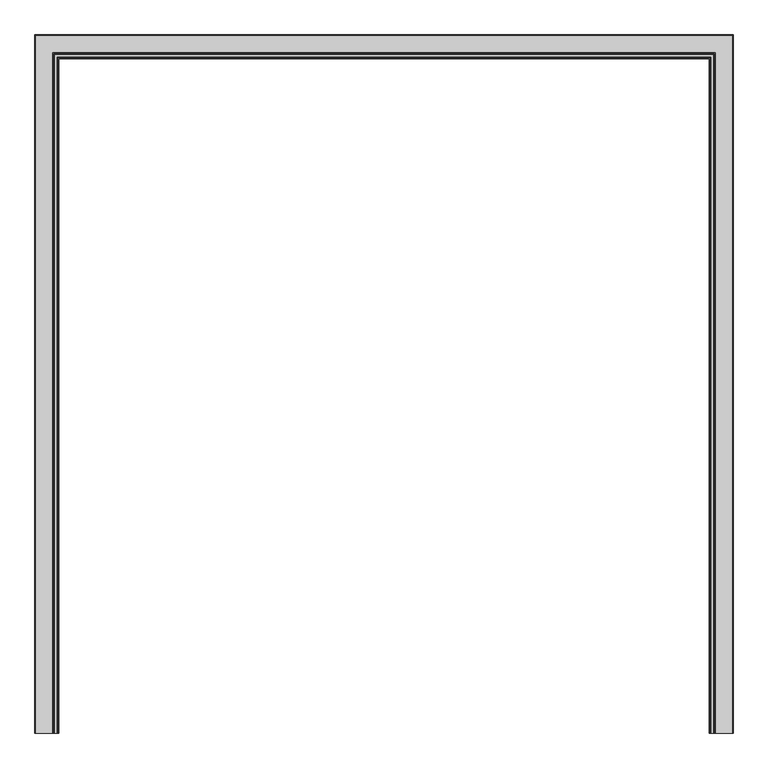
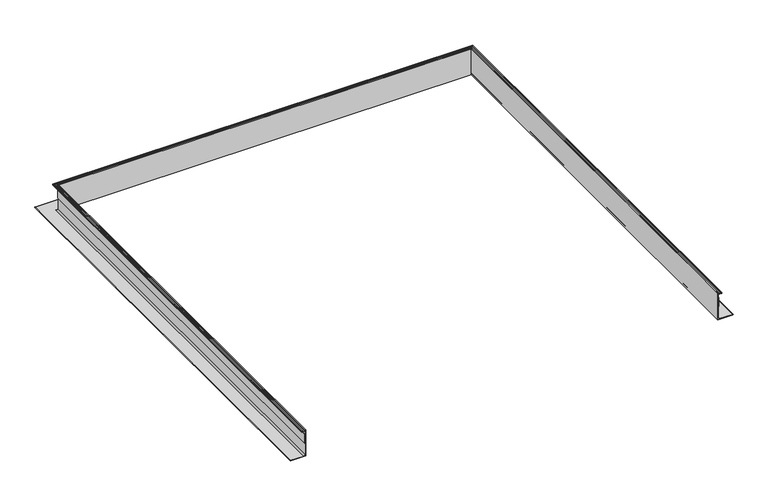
"""IFC4 building model written with IfcOpenShell, lengths in millimetres: fastener geometry."""

from ifc_helpers import new_model, si_unit, frame, origin, place, context, project, spatial, polyline, circle_curve, ellipse_curve, outline, extrude, source, transform, mapped, element, save
from ifc_brep_helpers import plane_surface, cylinder_surface, revolved_surface, advanced_brep


def fastener_20f67276(model_context):
    return source(origin(), model_context, "Body", "SolidModel", [
        advanced_brep(
        [(-1135.3165, -1219.2, -15.1804688), (-1141.2343456, -1219.2, -15.1804688), (-1141.460117, -1219.2, -17.1999455), (-1140.3710112, -1219.2, -18.2679836), (-1140.8594568, -1219.2, -19.21101), (-1152.5091166, -1219.2, -19.21101), (-1152.9649499, -1219.2, -18.2679836), (-1151.9131963, -1219.2, -17.1999455), (-1152.1178999, -1219.2, -15.1804688), (-1156.2117258, -1219.2, -15.1804688), (-1156.2117258, -1219.2, -21.87801), (-1137.9835, -1219.2, -21.87801), (-1137.9835, -1219.2, -157.3625171), (-1145.5344517, -1219.2, -164.9134688), (-1217.8665, -1219.2, -164.9134688), (-1217.8665, -1219.2, -167.5804688), (-1135.3165, -1219.2, -167.5804688), (1135.3165, -1219.2, -15.1804688), (1135.3165, -1219.2, -167.5804688), (1217.8665, -1219.2, -167.5804688), (1217.8665, -1219.2, -164.9134688), (1145.5344517, -1219.2, -164.9134688), (1137.9835, -1219.2, -157.3625171), (1137.9835, -1219.2, -21.87801), (1156.2117258, -1219.2, -21.87801), (1156.2117258, -1219.2, -15.1804688), (1152.1178999, -1219.2, -15.1804688), (1151.9131963, -1219.2, -17.1999455), (1152.9649499, -1219.2, -18.2679836), (1152.5091166, -1219.2, -19.21101), (1140.8594568, -1219.2, -19.21101), (1140.3710112, -1219.2, -18.2679836), (1141.460117, -1219.2, -17.1999455), (1141.2343456, -1219.2, -15.1804688), (-1141.460117, 1141.460117, -17.1999455), (-1141.2343456, 1141.2343456, -15.1804688), (1141.2343456, 1141.2343456, -15.1804688), (1141.460117, 1141.460117, -17.1999455), (-1140.3710112, 1140.3710112, -18.2679836), (1140.3710112, 1140.3710112, -18.2679836), (-1140.8594568, 1140.8594568, -19.21101), (1140.8594568, 1140.8594568, -19.21101), (-1152.9649499, 1152.9649499, -18.2679836), (-1152.5091166, 1152.5091166, -19.21101), (1152.5091166, 1152.5091166, -19.21101), (1152.9649499, 1152.9649499, -18.2679836), (-1151.9131963, 1151.9131963, -17.1999455), (1151.9131963, 1151.9131963, -17.1999455), (-1152.1178999, 1152.1178999, -15.1804688), (1152.1178999, 1152.1178999, -15.1804688), (-1156.2117258, 1156.2117258, -21.87801), (-1156.2117258, 1156.2117258, -15.1804688), (1156.2117258, 1156.2117258, -15.1804688), (1156.2117258, 1156.2117258, -21.87801), (-1137.9835, 1137.9835, -157.3625171), (-1137.9835, 1137.9835, -21.87801), (1137.9835, 1137.9835, -21.87801), (1137.9835, 1137.9835, -157.3625171), (-1145.5344517, 1145.5344517, -164.9134688), (1145.5344517, 1145.5344517, -164.9134688), (-1217.8665, 1217.8665, -167.5804688), (-1217.8665, 1217.8665, -164.9134688), (1217.8665, 1217.8665, -164.9134688), (1217.8665, 1217.8665, -167.5804688), (-1135.3165, 1135.3165, -15.1804688), (-1135.3165, 1135.3165, -167.5804688), (1135.3165, 1135.3165, -167.5804688), (1135.3165, 1135.3165, -15.1804688)],
        [
            (0, 1),
            (1, 2, circle_curve(frame((-1140.5022273, -1219.2, -16.284676), z_axis=(0.0, -1.0, 0.0), x_axis=(-1.0, 0.0, 0.0)), 1.3248664)),
            (2, 3),
            (3, 4, circle_curve(frame((-1140.8594568, -1219.2, -18.6130003), z_axis=(0.0, 1.0, 0.0), x_axis=(-1.0, 0.0, 0.0)), 0.5980097)),
            (4, 5),
            (5, 6, circle_curve(frame((-1152.5091166, -1219.2, -18.6293281), z_axis=(0.0, 1.0, 0.0), x_axis=(-1.0, 0.0, 0.0)), 0.5816819)),
            (6, 7),
            (7, 8, circle_curve(frame((-1152.8274757, -1219.2, -16.2725079), z_axis=(0.0, -1.0, 0.0), x_axis=(-1.0, 0.0, 0.0)), 1.3023238)),
            (8, 9),
            (9, 10),
            (10, 11),
            (11, 12),
            (12, 13, circle_curve(frame((-1145.5344517, -1219.2, -157.3625171), z_axis=(0.0, 1.0, 0.0), x_axis=(-1.0, 0.0, 0.0)), 7.5509517)),
            (13, 14),
            (14, 15, circle_curve(frame((-1217.8665, -1219.2, -166.2469688), z_axis=(0.0, -1.0, 0.0), x_axis=(-1.0, 0.0, 0.0)), 1.3335)),
            (15, 16),
            (16, 0),
            (17, 18),
            (18, 19),
            (19, 20, circle_curve(frame((1217.8665, -1219.2, -166.2469688), z_axis=(0.0, -1.0, 0.0), x_axis=(1.0, 0.0, 0.0)), 1.3335)),
            (20, 21),
            (21, 22, circle_curve(frame((1145.5344517, -1219.2, -157.3625171), z_axis=(0.0, 1.0, 0.0), x_axis=(1.0, 0.0, 0.0)), 7.5509517)),
            (22, 23),
            (23, 24),
            (24, 25),
            (25, 26),
            (26, 27, circle_curve(frame((1152.8274757, -1219.2, -16.2725079), z_axis=(0.0, -1.0, 0.0), x_axis=(1.0, 0.0, 0.0)), 1.3023238)),
            (27, 28),
            (28, 29, circle_curve(frame((1152.5091166, -1219.2, -18.6293281), z_axis=(0.0, 1.0, 0.0), x_axis=(1.0, 0.0, 0.0)), 0.5816819)),
            (29, 30),
            (30, 31, circle_curve(frame((1140.8594568, -1219.2, -18.6130003), z_axis=(0.0, 1.0, 0.0), x_axis=(1.0, 0.0, 0.0)), 0.5980097)),
            (31, 32),
            (32, 33, circle_curve(frame((1140.5022273, -1219.2, -16.284676), z_axis=(0.0, -1.0, 0.0), x_axis=(1.0, 0.0, 0.0)), 1.3248664)),
            (33, 17),
            (34, 35, ellipse_curve(frame((-1140.5022273, 1140.5022273, -16.284676), z_axis=(0.7071067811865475, 0.7071067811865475, 0.0), x_axis=(-0.7071067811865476, 0.7071067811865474, 0.0)), 1.873644, 1.3248664)),
            (35, 36),
            (36, 37, ellipse_curve(frame((1140.5022273, 1140.5022273, -16.284676), z_axis=(-0.7071067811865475, 0.7071067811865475, 0.0), x_axis=(-0.7071067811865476, -0.7071067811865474, 0.0)), 1.873644, 1.3248664)),
            (37, 34),
            (38, 34),
            (37, 39),
            (39, 38),
            (40, 38, ellipse_curve(frame((-1140.8594568, 1140.8594568, -18.6130003), z_axis=(-0.7071067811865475, -0.7071067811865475, 0.0), x_axis=(0.7071067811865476, -0.7071067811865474, 0.0)), 0.8457134, 0.5980097)),
            (39, 41, ellipse_curve(frame((1140.8594568, 1140.8594568, -18.6130003), z_axis=(0.7071067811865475, -0.7071067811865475, 0.0), x_axis=(0.7071067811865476, 0.7071067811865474, 0.0)), 0.8457134, 0.5980097)),
            (41, 40),
            (42, 43, ellipse_curve(frame((-1152.5091166, 1152.5091166, -18.6293281), z_axis=(-0.7071067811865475, -0.7071067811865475, 0.0), x_axis=(0.7071067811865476, -0.7071067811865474, 0.0)), 0.8226224, 0.5816819)),
            (43, 44),
            (44, 45, ellipse_curve(frame((1152.5091166, 1152.5091166, -18.6293281), z_axis=(0.7071067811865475, -0.7071067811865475, 0.0), x_axis=(0.7071067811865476, 0.7071067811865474, 0.0)), 0.8226224, 0.5816819)),
            (45, 42),
            (46, 42),
            (45, 47),
            (47, 46),
            (48, 46, ellipse_curve(frame((-1152.8274757, 1152.8274757, -16.2725079), z_axis=(0.7071067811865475, 0.7071067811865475, 0.0), x_axis=(-0.7071067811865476, 0.7071067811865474, 0.0)), 1.841764, 1.3023238)),
            (47, 49, ellipse_curve(frame((1152.8274757, 1152.8274757, -16.2725079), z_axis=(-0.7071067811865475, 0.7071067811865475, 0.0), x_axis=(-0.7071067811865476, -0.7071067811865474, 0.0)), 1.841764, 1.3023238)),
            (49, 48),
            (50, 51),
            (51, 52),
            (52, 53),
            (53, 50),
            (54, 55),
            (55, 56),
            (56, 57),
            (57, 54),
            (58, 54, ellipse_curve(frame((-1145.5344517, 1145.5344517, -157.3625171), z_axis=(-0.7071067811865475, -0.7071067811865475, 0.0), x_axis=(0.7071067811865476, -0.7071067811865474, 0.0)), 10.6786583, 7.5509517)),
            (57, 59, ellipse_curve(frame((1145.5344517, 1145.5344517, -157.3625171), z_axis=(0.7071067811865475, -0.7071067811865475, 0.0), x_axis=(0.7071067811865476, 0.7071067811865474, 0.0)), 10.6786583, 7.5509517)),
            (59, 58),
            (60, 61, ellipse_curve(frame((-1217.8665, 1217.8665, -166.2469688), z_axis=(0.7071067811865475, 0.7071067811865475, 0.0), x_axis=(-0.7071067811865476, 0.7071067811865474, 0.0)), 1.8858538, 1.3335)),
            (61, 62),
            (62, 63, ellipse_curve(frame((1217.8665, 1217.8665, -166.2469688), z_axis=(-0.7071067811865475, 0.7071067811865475, 0.0), x_axis=(-0.7071067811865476, -0.7071067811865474, 0.0)), 1.8858538, 1.3335)),
            (63, 60),
            (64, 65),
            (65, 66),
            (66, 67),
            (67, 64),
            (0, 64),
            (67, 17),
            (33, 36),
            (35, 1),
            (34, 2),
            (38, 3),
            (40, 4),
            (41, 30),
            (29, 44),
            (43, 5),
            (42, 6),
            (46, 7),
            (48, 8),
            (49, 26),
            (25, 52),
            (51, 9),
            (50, 10),
            (53, 24),
            (23, 56),
            (55, 11),
            (54, 12),
            (58, 13),
            (59, 21),
            (20, 62),
            (61, 14),
            (60, 15),
            (63, 19),
            (18, 66),
            (65, 16),
            (32, 37),
            (31, 39),
            (28, 45),
            (27, 47),
            (22, 57),
        ],
        [
            plane_surface(frame((-1219.2, -1219.2, 0.0), z_axis=(0.0, -1.0, 0.0), x_axis=(0.0, 0.0, 1.0))),
            plane_surface(frame((1219.2, -1219.2, 0.0), z_axis=(0.0, -1.0, 0.0), x_axis=(0.0, 0.0, 1.0))),
            cylinder_surface(frame((-1219.2, 1140.5022273, -16.284676), z_axis=(-1.0, 0.0, 0.0), x_axis=(0.0, 1.0, 0.0)), 1.3248664),
            plane_surface(frame((-1141.460117, 1141.460117, -17.1999455), z_axis=(0.0, 0.7001674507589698, -0.7139786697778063), x_axis=(1.0, 0.0, 0.0))),
            revolved_surface(polyline([(1141.4574664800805, 1141.4574665, -18.6130003), (-1141.4574664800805, 1141.4574665, -18.6130003)]), (-1219.2, 1140.8594568, -18.6130003), (1.0, 0.0, 0.0)),
            revolved_surface(polyline([(1153.090798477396, 1153.0907985, -18.6293281), (-1153.090798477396, 1153.0907985, -18.6293281)]), (-1219.2, 1152.5091166, -18.6293281), (1.0, 0.0, 0.0)),
            plane_surface(frame((-1152.9649499, 1152.9649499, -18.2679836), z_axis=(0.0, -0.7125178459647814, -0.7016539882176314), x_axis=(1.0, 0.0, 0.0))),
            cylinder_surface(frame((-1219.2, 1152.8274757, -16.2725079), z_axis=(-1.0, 0.0, 0.0), x_axis=(0.0, 1.0, 0.0)), 1.3023238),
            plane_surface(frame((-1156.2117258, 1156.2117258, -15.1804688), z_axis=(0.0, 1.0, 0.0), x_axis=(1.0, 0.0, 0.0))),
            plane_surface(frame((-1137.9835, 1137.9835, -21.87801), z_axis=(0.0, 1.0, 0.0), x_axis=(1.0, 0.0, 0.0))),
            revolved_surface(polyline([(1153.0854033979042, 1153.0854034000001, -157.3625171), (-1153.0854033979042, 1153.0854034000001, -157.3625171)]), (-1219.2, 1145.5344517, -157.3625171), (1.0, 0.0, 0.0)),
            cylinder_surface(frame((-1219.2, 1217.8665, -166.2469688), z_axis=(-1.0, 0.0, 0.0), x_axis=(0.0, 1.0, 0.0)), 1.3335),
            plane_surface(frame((-1135.3165, 1135.3165, -167.5804688), z_axis=(0.0, -1.0, 0.0), x_axis=(1.0, 0.0, 0.0))),
            plane_surface(frame((-1135.3165, -1219.2, -15.1804688), z_axis=(0.0, 0.0, 1.0), x_axis=(0.0, 1.0, 0.0))),
            cylinder_surface(frame((-1140.5022273, -1219.2, -16.284676), z_axis=(0.0, -1.0, 0.0), x_axis=(-1.0, 0.0, 0.0)), 1.3248664),
            plane_surface(frame((-1141.460117, -1219.2, -17.1999455), z_axis=(-0.7001674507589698, 0.0, -0.7139786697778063), x_axis=(0.0, 1.0, 0.0))),
            revolved_surface(polyline([(-1141.4574665, 1141.4574664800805, -18.6130003), (-1141.4574665, -1219.2, -18.6130003)]), (-1140.8594568, -1219.2, -18.6130003), (0.0, 1.0, 0.0)),
            plane_surface(frame((-1140.8594568, -1219.2, -19.21101), z_axis=(0.0, 0.0, 1.0), x_axis=(0.0, 1.0, 0.0))),
            revolved_surface(polyline([(-1153.0907985, 1153.090798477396, -18.6293281), (-1153.0907985, -1219.2, -18.6293281)]), (-1152.5091166, -1219.2, -18.6293281), (0.0, 1.0, 0.0)),
            plane_surface(frame((-1152.9649499, -1219.2, -18.2679836), z_axis=(0.7125178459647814, 0.0, -0.7016539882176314), x_axis=(0.0, 1.0, 0.0))),
            cylinder_surface(frame((-1152.8274757, -1219.2, -16.2725079), z_axis=(0.0, -1.0, 0.0), x_axis=(-1.0, 0.0, 0.0)), 1.3023238),
            plane_surface(frame((-1152.1178999, -1219.2, -15.1804688), z_axis=(0.0, 0.0, 1.0), x_axis=(0.0, 1.0, 0.0))),
            plane_surface(frame((-1156.2117258, -1219.2, -15.1804688), z_axis=(-1.0, 0.0, 0.0), x_axis=(0.0, 1.0, 0.0))),
            plane_surface(frame((-1156.2117258, -1219.2, -21.87801), z_axis=(0.0, 0.0, -1.0), x_axis=(0.0, 1.0, 0.0))),
            plane_surface(frame((-1137.9835, -1219.2, -21.87801), z_axis=(-1.0, 0.0, 0.0), x_axis=(0.0, 1.0, 0.0))),
            revolved_surface(polyline([(-1153.0854034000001, 1153.0854033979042, -157.3625171), (-1153.0854034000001, -1219.2, -157.3625171)]), (-1145.5344517, -1219.2, -157.3625171), (0.0, 1.0, 0.0)),
            plane_surface(frame((-1145.5344517, -1219.2, -164.9134688), z_axis=(0.0, 0.0, 1.0), x_axis=(0.0, 1.0, 0.0))),
            cylinder_surface(frame((-1217.8665, -1219.2, -166.2469688), z_axis=(0.0, -1.0, 0.0), x_axis=(-1.0, 0.0, 0.0)), 1.3335),
            plane_surface(frame((-1217.8665, -1219.2, -167.5804688), z_axis=(0.0, 0.0, -1.0), x_axis=(0.0, 1.0, 0.0))),
            plane_surface(frame((-1135.3165, -1219.2, -167.5804688), z_axis=(1.0, 0.0, 0.0), x_axis=(0.0, 1.0, 0.0))),
            cylinder_surface(frame((1140.5022273, 1219.2, -16.284676), z_axis=(0.0, 1.0, 0.0), x_axis=(1.0, 0.0, 0.0)), 1.3248664),
            plane_surface(frame((1141.460117, 1141.460117, -17.1999455), z_axis=(0.7001674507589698, 0.0, -0.7139786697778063), x_axis=(0.0, -1.0, 0.0))),
            revolved_surface(polyline([(1141.4574665, -1219.2, -18.6130003), (1141.4574665, 1141.4574664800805, -18.6130003)]), (1140.8594568, 1219.2, -18.6130003), (0.0, -1.0, 0.0)),
            revolved_surface(polyline([(1153.0907985, -1219.2, -18.6293281), (1153.0907985, 1153.090798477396, -18.6293281)]), (1152.5091166, 1219.2, -18.6293281), (0.0, -1.0, 0.0)),
            plane_surface(frame((1152.9649499, 1152.9649499, -18.2679836), z_axis=(-0.7125178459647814, 0.0, -0.7016539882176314), x_axis=(0.0, -1.0, 0.0))),
            cylinder_surface(frame((1152.8274757, 1219.2, -16.2725079), z_axis=(0.0, 1.0, 0.0), x_axis=(1.0, 0.0, 0.0)), 1.3023238),
            plane_surface(frame((1156.2117258, 1156.2117258, -15.1804688), z_axis=(1.0, 0.0, 0.0), x_axis=(0.0, -1.0, 0.0))),
            plane_surface(frame((1137.9835, 1137.9835, -21.87801), z_axis=(1.0, 0.0, 0.0), x_axis=(0.0, -1.0, 0.0))),
            revolved_surface(polyline([(1153.0854034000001, -1219.2, -157.3625171), (1153.0854034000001, 1153.0854033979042, -157.3625171)]), (1145.5344517, 1219.2, -157.3625171), (0.0, -1.0, 0.0)),
            cylinder_surface(frame((1217.8665, 1219.2, -166.2469688), z_axis=(0.0, 1.0, 0.0), x_axis=(1.0, 0.0, 0.0)), 1.3335),
            plane_surface(frame((1135.3165, 1135.3165, -167.5804688), z_axis=(-1.0, 0.0, 0.0), x_axis=(0.0, -1.0, 0.0))),
        ],
        [
            (0, [[1, 2, 3, 4, 5, 6, 7, 8, 9, 10, 11, 12, 13, 14, 15, 16, 17]]),
            (1, [[18, 19, 20, 21, 22, 23, 24, 25, 26, 27, 28, 29, 30, 31, 32, 33, 34]]),
            (2, [[35, 36, 37, 38]]),
            (3, [[39, -38, 40, 41]]),
            (4, [[42, -41, 43, 44]]),
            (5, [[45, 46, 47, 48]]),
            (6, [[49, -48, 50, 51]]),
            (7, [[52, -51, 53, 54]]),
            (8, [[55, 56, 57, 58]]),
            (9, [[59, 60, 61, 62]]),
            (10, [[63, -62, 64, 65]]),
            (11, [[66, 67, 68, 69]]),
            (12, [[70, 71, 72, 73]]),
            (13, [[-1, 74, -73, 75, -34, 76, -36, 77]]),
            (14, [[-2, -77, -35, 78]]),
            (15, [[-3, -78, -39, 79]]),
            (16, [[-4, -79, -42, 80]]),
            (17, [[-5, -80, -44, 81, -30, 82, -46, 83]]),
            (18, [[-6, -83, -45, 84]]),
            (19, [[-7, -84, -49, 85]]),
            (20, [[-8, -85, -52, 86]]),
            (21, [[-9, -86, -54, 87, -26, 88, -56, 89]]),
            (22, [[-10, -89, -55, 90]]),
            (23, [[-11, -90, -58, 91, -24, 92, -60, 93]]),
            (24, [[-12, -93, -59, 94]]),
            (25, [[-13, -94, -63, 95]]),
            (26, [[-14, -95, -65, 96, -21, 97, -67, 98]]),
            (27, [[-15, -98, -66, 99]]),
            (28, [[-16, -99, -69, 100, -19, 101, -71, 102]]),
            (29, [[-17, -102, -70, -74]]),
            (30, [[-37, -76, -33, 103]]),
            (31, [[-40, -103, -32, 104]]),
            (32, [[-43, -104, -31, -81]]),
            (33, [[-47, -82, -29, 105]]),
            (34, [[-50, -105, -28, 106]]),
            (35, [[-53, -106, -27, -87]]),
            (36, [[-57, -88, -25, -91]]),
            (37, [[-61, -92, -23, 107]]),
            (38, [[-64, -107, -22, -96]]),
            (39, [[-68, -97, -20, -100]]),
            (40, [[-72, -101, -18, -75]]),
        ],
    ),
        extrude(outline(polyline([(-1137.9835, -1219.2), (-1139.9113319, -1219.2), (-1139.9113319, 1139.9113319), (1139.9113319, 1139.9113319), (1139.9113319, -1219.2), (1137.9835, -1219.2), (1137.9835, 1137.9835), (-1137.9835, 1137.9835), (-1137.9835, -1219.2)])), frame((0.0, 0.0, -92.5710938), z_axis=(0.0, 0.0, 1.0), x_axis=(1.0, 0.0, 0.0)), (0.0, 0.0, 1.0), 53.18125),
    ])


if __name__ == "__main__":
    model = new_model("IFC4")
    model_context = context("Model", 3, world=origin())
    ifc_project = project(units=[si_unit("LENGTHUNIT", "METRE", prefix="MILLI")], contexts=[model_context])
    site = spatial("IfcSite", under=ifc_project)
    building = spatial("IfcBuilding", under=site)
    placement = place(None, origin())
    fastener_shape = fastener_20f67276(model_context)
    element("IfcFastener", 1, ObjectType="Structural-Supporting-Components_Advanced-Architectural-Products_GreenGirt-CMH-XO-System : GreenGirt CMH XO 6.0\"", at=placement, inside=building, context=model_context, shape_type="MappedRepresentation", body=[
        mapped(fastener_shape, transform((0.0, 0.0, 0.0), x_axis=(1.0, 0.0, 0.0), y_axis=(0.0, 1.0, 0.0), z_axis=(0.0, 0.0, 1.0))),
    ])
    save(model, "model.ifc")
